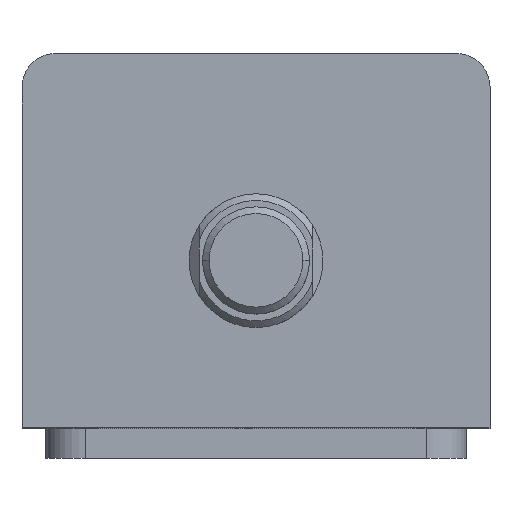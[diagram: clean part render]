
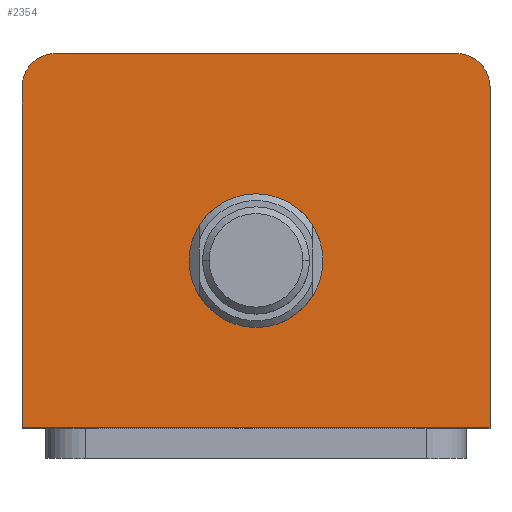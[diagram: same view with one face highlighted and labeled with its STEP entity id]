
A CAD part, top view. The second image highlights one B-rep face of the part: STEP entity #2354.
In plain terms, the highlighted planar face has unit normal (0, 0, 1).
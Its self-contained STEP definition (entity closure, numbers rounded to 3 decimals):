
#60 = EDGE_LOOP ( 'NONE', ( #1230, #1229 ) ) ;
#117 = AXIS2_PLACEMENT_3D ( 'NONE', #531, #530, #526 ) ;
#153 = AXIS2_PLACEMENT_3D ( 'NONE', #1561, #1560, #1557 ) ;
#175 = AXIS2_PLACEMENT_3D ( 'NONE', #710, #705, #704 ) ;
#274 = AXIS2_PLACEMENT_3D ( 'NONE', #1480, #1479, #1478 ) ;
#363 = EDGE_CURVE ( 'NONE', #2010, #1985, #2130, .T. ) ;
#386 = EDGE_CURVE ( 'NONE', #1985, #2019, #2399, .T. ) ;
#388 = EDGE_CURVE ( 'NONE', #2046, #1986, #2401, .T. ) ;
#526 = DIRECTION ( 'NONE',  ( 1., 0., 0. ) ) ;
#530 = DIRECTION ( 'NONE',  ( 0., 0., 1. ) ) ;
#531 = CARTESIAN_POINT ( 'NONE',  ( 30., 23., 69. ) ) ;
#704 = DIRECTION ( 'NONE',  ( 1., 0., 0. ) ) ;
#705 = DIRECTION ( 'NONE',  ( 0., 0., 1. ) ) ;
#707 = PLANE ( 'NONE',  #175 ) ;
#710 = CARTESIAN_POINT ( 'NONE',  ( 0., 0., 69. ) ) ;
#736 = DIRECTION ( 'NONE',  ( -1., 0., 0. ) ) ;
#739 = CARTESIAN_POINT ( 'NONE',  ( -35., 28., 69. ) ) ;
#987 = EDGE_LOOP ( 'NONE', ( #1228, #1227, #1226, #1225, #1224, #1223 ) ) ;
#1223 = ORIENTED_EDGE ( 'NONE', *, *, #363, .T. ) ;
#1224 = ORIENTED_EDGE ( 'NONE', *, *, #2230, .T. ) ;
#1225 = ORIENTED_EDGE ( 'NONE', *, *, #2235, .T. ) ;
#1226 = ORIENTED_EDGE ( 'NONE', *, *, #2291, .T. ) ;
#1227 = ORIENTED_EDGE ( 'NONE', *, *, #2305, .T. ) ;
#1228 = ORIENTED_EDGE ( 'NONE', *, *, #386, .T. ) ;
#1229 = ORIENTED_EDGE ( 'NONE', *, *, #388, .F. ) ;
#1230 = ORIENTED_EDGE ( 'NONE', *, *, #2179, .F. ) ;
#1478 = DIRECTION ( 'NONE',  ( 1., 0., 0. ) ) ;
#1479 = DIRECTION ( 'NONE',  ( 0., 0., 1. ) ) ;
#1480 = CARTESIAN_POINT ( 'NONE',  ( -30., 23., 69. ) ) ;
#1487 = DIRECTION ( 'NONE',  ( 0., -1., 0. ) ) ;
#1491 = CARTESIAN_POINT ( 'NONE',  ( -35., 28., 69. ) ) ;
#1557 = DIRECTION ( 'NONE',  ( 1., 0., 0. ) ) ;
#1560 = DIRECTION ( 'NONE',  ( 0., 0., 1. ) ) ;
#1561 = CARTESIAN_POINT ( 'NONE',  ( 0., -3., 69. ) ) ;
#1604 = CARTESIAN_POINT ( 'NONE',  ( -10., -3., 69. ) ) ;
#1624 = CARTESIAN_POINT ( 'NONE',  ( -30., 28., 69. ) ) ;
#1642 = CARTESIAN_POINT ( 'NONE',  ( 35., 23., 69. ) ) ;
#1653 = CARTESIAN_POINT ( 'NONE',  ( -35., -28., 69. ) ) ;
#1687 = CARTESIAN_POINT ( 'NONE',  ( 10., -3., 69. ) ) ;
#1688 = CARTESIAN_POINT ( 'NONE',  ( 35., -28., 69. ) ) ;
#1708 = CARTESIAN_POINT ( 'NONE',  ( -35., 23., 69. ) ) ;
#1739 = CARTESIAN_POINT ( 'NONE',  ( 30., 28., 69. ) ) ;
#1951 = VERTEX_POINT ( 'NONE', #1739 ) ;
#1973 = VERTEX_POINT ( 'NONE', #1708 ) ;
#1985 = VERTEX_POINT ( 'NONE', #1688 ) ;
#1986 = VERTEX_POINT ( 'NONE', #1687 ) ;
#2010 = VERTEX_POINT ( 'NONE', #1653 ) ;
#2019 = VERTEX_POINT ( 'NONE', #1642 ) ;
#2032 = VERTEX_POINT ( 'NONE', #1624 ) ;
#2046 = VERTEX_POINT ( 'NONE', #1604 ) ;
#2130 = LINE ( 'NONE', #3152, #2133 ) ;
#2133 = VECTOR ( 'NONE', #3151, 1000. ) ;
#2179 = EDGE_CURVE ( 'NONE', #1986, #2046, #2580, .T. ) ;
#2230 = EDGE_CURVE ( 'NONE', #1973, #2010, #2604, .T. ) ;
#2235 = EDGE_CURVE ( 'NONE', #2032, #1973, #2608, .T. ) ;
#2250 = AXIS2_PLACEMENT_3D ( 'NONE', #3092, #3091, #3090 ) ;
#2291 = EDGE_CURVE ( 'NONE', #1951, #2032, #2642, .T. ) ;
#2305 = EDGE_CURVE ( 'NONE', #2019, #1951, #2659, .T. ) ;
#2354 = ADVANCED_FACE ( 'NONE', ( #2785, #2792 ), #707, .T. ) ;
#2399 = LINE ( 'NONE', #3101, #2403 ) ;
#2401 = CIRCLE ( 'NONE', #2250, 10. ) ;
#2403 = VECTOR ( 'NONE', #3105, 1000. ) ;
#2580 = CIRCLE ( 'NONE', #153, 10. ) ;
#2604 = LINE ( 'NONE', #1491, #2607 ) ;
#2607 = VECTOR ( 'NONE', #1487, 1000. ) ;
#2608 = CIRCLE ( 'NONE', #274, 5. ) ;
#2642 = LINE ( 'NONE', #739, #2645 ) ;
#2645 = VECTOR ( 'NONE', #736, 1000. ) ;
#2659 = CIRCLE ( 'NONE', #117, 5. ) ;
#2785 = FACE_BOUND ( 'NONE', #60, .T. ) ;
#2792 = FACE_OUTER_BOUND ( 'NONE', #987, .T. ) ;
#3090 = DIRECTION ( 'NONE',  ( 1., 0., 0. ) ) ;
#3091 = DIRECTION ( 'NONE',  ( 0., 0., 1. ) ) ;
#3092 = CARTESIAN_POINT ( 'NONE',  ( 0., -3., 69. ) ) ;
#3101 = CARTESIAN_POINT ( 'NONE',  ( 35., 28., 69. ) ) ;
#3105 = DIRECTION ( 'NONE',  ( 0., 1., 0. ) ) ;
#3151 = DIRECTION ( 'NONE',  ( 1., 0., 0. ) ) ;
#3152 = CARTESIAN_POINT ( 'NONE',  ( -35., -28., 69. ) ) ;
